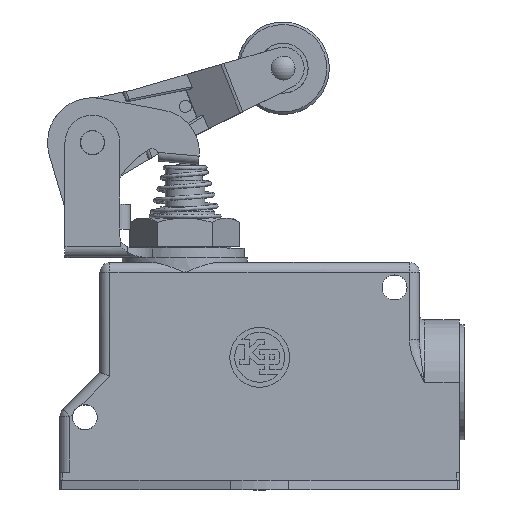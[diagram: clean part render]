
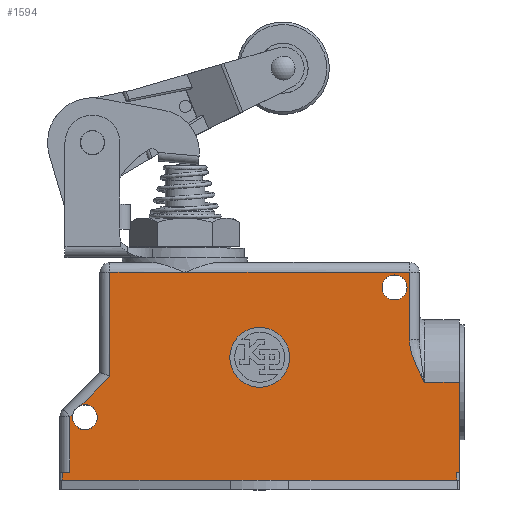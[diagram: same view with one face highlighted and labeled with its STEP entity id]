
A CAD part, top view. The second image highlights one B-rep face of the part: STEP entity #1594.
In plain terms, the highlighted planar face has unit normal (0, 0, 1).
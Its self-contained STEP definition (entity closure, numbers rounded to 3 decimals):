
#1360=CARTESIAN_POINT('',(2.,2.,12.5));
#1361=VERTEX_POINT('',#1360);
#1362=CARTESIAN_POINT('',(-4.,2.,12.5));
#1363=DIRECTION('',(0.0,0.0,-1.0));
#1364=DIRECTION('',(-1.0,0.0,0.0));
#1365=AXIS2_PLACEMENT_3D('',#1362,#1363,#1364);
#1366=CIRCLE('',#1365,6.);
#1367=EDGE_CURVE('',#1361,#1361,#1366,.T.);
#1435=CARTESIAN_POINT('',(-0.842,-0.842,12.5));
#1436=DIRECTION('',(0.0,0.0,1.0));
#1437=DIRECTION('',(1.0,0.0,0.0));
#1438=AXIS2_PLACEMENT_3D('',#1435,#1436,#1437);
#1439=PLANE('',#1438);
#1440=CARTESIAN_POINT('',(-39.805,-7.633,12.5));
#1441=VERTEX_POINT('',#1440);
#1442=CARTESIAN_POINT('',(-41.367,-9.195,12.5));
#1443=VERTEX_POINT('',#1442);
#1444=CARTESIAN_POINT('',(-39.0,-10.0,12.5));
#1445=DIRECTION('',(0.0,0.0,-1.0));
#1446=DIRECTION('',(1.0,0.0,0.0));
#1447=AXIS2_PLACEMENT_3D('',#1444,#1445,#1446);
#1448=CIRCLE('',#1447,2.5);
#1449=EDGE_CURVE('',#1441,#1443,#1448,.T.);
#1450=ORIENTED_EDGE('',*,*,#1449,.T.);
#1451=CARTESIAN_POINT('',(-42.,-9.828,12.5));
#1452=VERTEX_POINT('',#1451);
#1453=CARTESIAN_POINT('',(-42.,-9.828,12.5));
#1454=DIRECTION('',(0.707,0.707,0.0));
#1455=VECTOR('',#1454,0.895);
#1456=LINE('',#1453,#1455);
#1457=EDGE_CURVE('',#1452,#1443,#1456,.T.);
#1458=ORIENTED_EDGE('',*,*,#1457,.F.);
#1459=CARTESIAN_POINT('',(-42.0,-21.0,12.5));
#1460=VERTEX_POINT('',#1459);
#1461=CARTESIAN_POINT('',(-42.0,-21.0,12.5));
#1462=DIRECTION('',(0.0,1.0,0.0));
#1463=VECTOR('',#1462,11.172);
#1464=LINE('',#1461,#1463);
#1465=EDGE_CURVE('',#1460,#1452,#1464,.T.);
#1466=ORIENTED_EDGE('',*,*,#1465,.F.);
#1467=CARTESIAN_POINT('',(-43.5,-21.0,12.5));
#1468=VERTEX_POINT('',#1467);
#1469=CARTESIAN_POINT('',(-42.0,-21.,12.5));
#1470=DIRECTION('',(-1.0,0.0,0.0));
#1471=VECTOR('',#1470,1.5);
#1472=LINE('',#1469,#1471);
#1473=EDGE_CURVE('',#1460,#1468,#1472,.T.);
#1474=ORIENTED_EDGE('',*,*,#1473,.T.);
#1475=CARTESIAN_POINT('',(-43.5,-22.6,12.5));
#1476=VERTEX_POINT('',#1475);
#1477=CARTESIAN_POINT('',(-43.5,-22.6,12.5));
#1478=DIRECTION('',(0.0,1.0,0.0));
#1479=VECTOR('',#1478,1.6);
#1480=LINE('',#1477,#1479);
#1481=EDGE_CURVE('',#1476,#1468,#1480,.T.);
#1482=ORIENTED_EDGE('',*,*,#1481,.F.);
#1483=CARTESIAN_POINT('',(35.5,-22.6,12.5));
#1484=VERTEX_POINT('',#1483);
#1485=CARTESIAN_POINT('',(-43.5,-22.6,12.5));
#1486=DIRECTION('',(1.0,0.0,0.0));
#1487=VECTOR('',#1486,79.0);
#1488=LINE('',#1485,#1487);
#1489=EDGE_CURVE('',#1476,#1484,#1488,.T.);
#1490=ORIENTED_EDGE('',*,*,#1489,.T.);
#1491=CARTESIAN_POINT('',(35.5,-21.,12.5));
#1492=VERTEX_POINT('',#1491);
#1493=CARTESIAN_POINT('',(35.5,-21.,12.5));
#1494=DIRECTION('',(0.0,-1.0,0.0));
#1495=VECTOR('',#1494,1.6);
#1496=LINE('',#1493,#1495);
#1497=EDGE_CURVE('',#1492,#1484,#1496,.T.);
#1498=ORIENTED_EDGE('',*,*,#1497,.F.);
#1499=CARTESIAN_POINT('',(36.0,-21.,12.5));
#1500=VERTEX_POINT('',#1499);
#1501=CARTESIAN_POINT('',(36.0,-21.0,12.5));
#1502=DIRECTION('',(-1.0,0.0,0.0));
#1503=VECTOR('',#1502,0.5);
#1504=LINE('',#1501,#1503);
#1505=EDGE_CURVE('',#1500,#1492,#1504,.T.);
#1506=ORIENTED_EDGE('',*,*,#1505,.F.);
#1507=CARTESIAN_POINT('',(36.0,-3.,12.5));
#1508=VERTEX_POINT('',#1507);
#1509=CARTESIAN_POINT('',(36.0,-3.,12.5));
#1510=DIRECTION('',(0.0,-1.0,0.0));
#1511=VECTOR('',#1510,18.0);
#1512=LINE('',#1509,#1511);
#1513=EDGE_CURVE('',#1508,#1500,#1512,.T.);
#1514=ORIENTED_EDGE('',*,*,#1513,.F.);
#1515=CARTESIAN_POINT('',(29.,-3.,12.5));
#1516=VERTEX_POINT('',#1515);
#1517=CARTESIAN_POINT('',(29.,-3.,12.5));
#1518=DIRECTION('',(1.0,0.0,0.0));
#1519=VECTOR('',#1518,7.);
#1520=LINE('',#1517,#1519);
#1521=EDGE_CURVE('',#1516,#1508,#1520,.T.);
#1522=ORIENTED_EDGE('',*,*,#1521,.F.);
#1523=CARTESIAN_POINT('',(26.,5.485,12.5));
#1524=VERTEX_POINT('',#1523);
#1525=CARTESIAN_POINT('',(26.,5.485,12.5));
#1526=CARTESIAN_POINT('',(26.,4.882,12.5));
#1527=CARTESIAN_POINT('',(26.143,3.67,12.5));
#1528=CARTESIAN_POINT('',(26.648,1.918,12.5));
#1529=CARTESIAN_POINT('',(27.22,0.524,12.5));
#1530=CARTESIAN_POINT('',(27.736,-0.571,12.5));
#1531=CARTESIAN_POINT('',(28.144,-1.383,12.5));
#1532=CARTESIAN_POINT('',(28.566,-2.188,12.5));
#1533=CARTESIAN_POINT('',(28.851,-2.721,12.5));
#1534=CARTESIAN_POINT('',(28.995,-2.991,12.5));
#1535=CARTESIAN_POINT('',(28.998,-2.996,12.5));
#1536=CARTESIAN_POINT('',(29.,-3.,12.5));
#1537=B_SPLINE_CURVE_WITH_KNOTS('',3,(#1525,#1526,#1527,#1528,#1529,#1530,#1531,#1532,#1533,#1534,#1535,#1536),.UNSPECIFIED.,.F.,.U.,(4,1,1,1,1,1,1,2,4),(0.0,0.181,0.362,0.543,0.634,0.724,0.815,0.906,0.907),.UNSPECIFIED.);
#1538=EDGE_CURVE('',#1524,#1516,#1537,.T.);
#1539=ORIENTED_EDGE('',*,*,#1538,.F.);
#1540=CARTESIAN_POINT('',(26.,19.,12.5));
#1541=VERTEX_POINT('',#1540);
#1542=CARTESIAN_POINT('',(26.,19.,12.5));
#1543=DIRECTION('',(0.0,-1.0,0.0));
#1544=VECTOR('',#1543,13.515);
#1545=LINE('',#1542,#1544);
#1546=EDGE_CURVE('',#1541,#1524,#1545,.T.);
#1547=ORIENTED_EDGE('',*,*,#1546,.F.);
#1548=CARTESIAN_POINT('',(-19.,19.,12.5));
#1549=VERTEX_POINT('',#1548);
#1550=CARTESIAN_POINT('',(-19.0,19.,12.5));
#1551=DIRECTION('',(1.0,0.0,0.0));
#1552=VECTOR('',#1551,45.);
#1553=LINE('',#1550,#1552);
#1554=EDGE_CURVE('',#1549,#1541,#1553,.T.);
#1555=ORIENTED_EDGE('',*,*,#1554,.F.);
#1556=CARTESIAN_POINT('',(-34.,19.,12.5));
#1557=VERTEX_POINT('',#1556);
#1558=CARTESIAN_POINT('',(-34.,19.,12.5));
#1559=DIRECTION('',(1.0,0.0,0.0));
#1560=VECTOR('',#1559,15.);
#1561=LINE('',#1558,#1560);
#1562=EDGE_CURVE('',#1557,#1549,#1561,.T.);
#1563=ORIENTED_EDGE('',*,*,#1562,.F.);
#1564=CARTESIAN_POINT('',(-34.,-1.828,12.5));
#1565=VERTEX_POINT('',#1564);
#1566=CARTESIAN_POINT('',(-34.,-1.828,12.5));
#1567=DIRECTION('',(0.0,1.0,0.0));
#1568=VECTOR('',#1567,20.828);
#1569=LINE('',#1566,#1568);
#1570=EDGE_CURVE('',#1565,#1557,#1569,.T.);
#1571=ORIENTED_EDGE('',*,*,#1570,.F.);
#1572=CARTESIAN_POINT('',(-39.805,-7.633,12.5));
#1573=DIRECTION('',(0.707,0.707,0.0));
#1574=VECTOR('',#1573,8.209);
#1575=LINE('',#1572,#1574);
#1576=EDGE_CURVE('',#1441,#1565,#1575,.T.);
#1577=ORIENTED_EDGE('',*,*,#1576,.F.);
#1578=EDGE_LOOP('',(#1450,#1458,#1466,#1474,#1482,#1490,#1498,#1506,#1514,#1522,#1539,#1547,#1555,#1563,#1571,#1577));
#1579=FACE_OUTER_BOUND('',#1578,.T.);
#1580=CARTESIAN_POINT('',(25.5,16.0,12.5));
#1581=VERTEX_POINT('',#1580);
#1582=CARTESIAN_POINT('',(23.0,16.0,12.5));
#1583=DIRECTION('',(0.0,0.0,-1.0));
#1584=DIRECTION('',(1.0,0.0,0.0));
#1585=AXIS2_PLACEMENT_3D('',#1582,#1583,#1584);
#1586=CIRCLE('',#1585,2.5);
#1587=EDGE_CURVE('',#1581,#1581,#1586,.T.);
#1588=ORIENTED_EDGE('',*,*,#1587,.T.);
#1589=EDGE_LOOP('',(#1588));
#1590=FACE_BOUND('',#1589,.T.);
#1591=ORIENTED_EDGE('',*,*,#1367,.T.);
#1592=EDGE_LOOP('',(#1591));
#1593=FACE_BOUND('',#1592,.T.);
#1594=ADVANCED_FACE('',(#1579,#1590,#1593),#1439,.T.);
